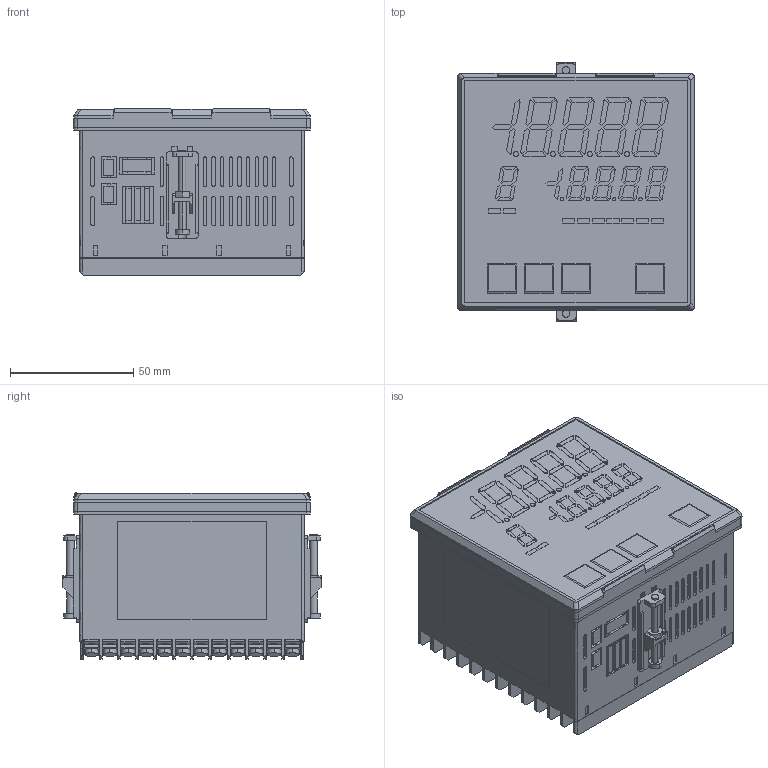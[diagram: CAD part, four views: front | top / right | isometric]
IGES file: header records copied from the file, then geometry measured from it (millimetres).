
Start section: SolidWorks IGES file using analytic representation for surfaces
Global section: file name: \\DJ3203\mecha_3d\B\BCD2\D14-011\HP_3D\BCD2_iges\AD_BCD2_141107.IGS; native system: SolidWorks 2013; preprocessor: SolidWorks 2013; author: soyama; date: 141128.171531; units: millimetre
Bounding box: 96 x 104.95 x 67.5 mm (x, y, z)
Surface area: 75317 mm2 (no closed solid volume)
Topology: 0 solids, 0 shells, 2264 faces, 18412 edges, 18412 vertices
Faces by surface type: bspline 1689, revolution 575
